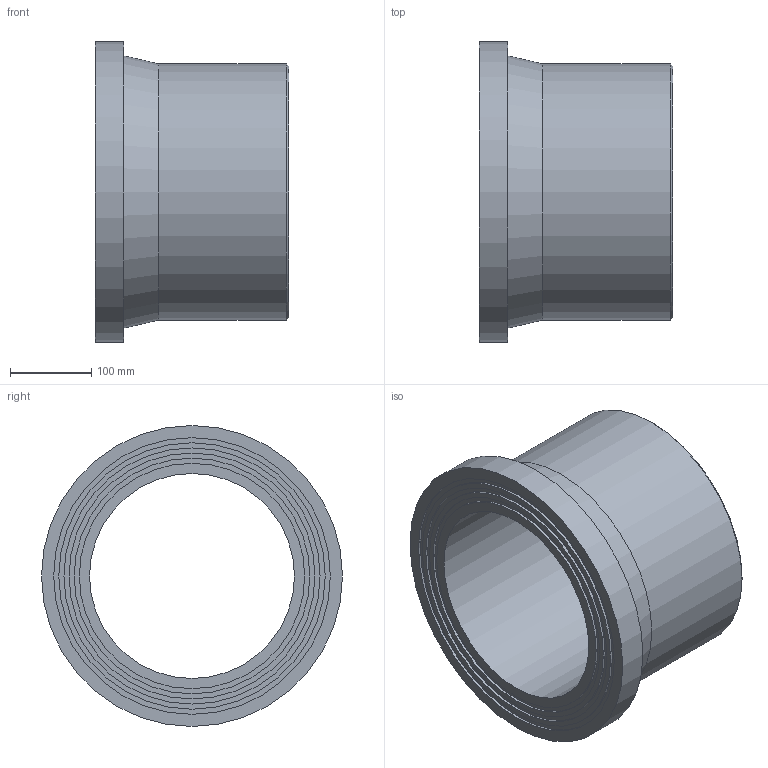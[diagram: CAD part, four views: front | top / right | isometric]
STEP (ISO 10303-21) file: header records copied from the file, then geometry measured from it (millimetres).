
FILE_DESCRIPTION(/* description */ ('Stub Flange 315'),/* implementation_level */ '2;1');
FILE_NAME(/* name */ 'C:\Dropbox\KIMPROJECTS-Inventor\99-16-3568-Processing\ElectroFusion Fittings\31.03.19\490207\490207315.ipt.stp',/* time_stamp */ '2019-03-31T18:57:54+03:00',/* author */ ('Кирилл'),/* organization */ (''),/* preprocessor_version */ 'ST-DEVELOPER v15.6',/* originating_system */ 'Autodesk Inventor 2015',/* authorisation */ '');
FILE_SCHEMA (('AUTOMOTIVE_DESIGN { 1 0 10303 214 3 1 1 }'));
Length unit declared in the file: millimetre
Products named in the file (1): 490207315
Bounding box: 238 x 370 x 370 mm (x, y, z)
Volume: 7867437.9 mm3; surface area: 554085.9 mm2
Topology: 1 solids, 1 shells, 20 faces, 31 edges, 20 vertices
Faces by surface type: cylinder 9, plane 9, cone 2
Full cylindrical faces by diameter (mm): 252 x1, 277.2 x1, 289.8 x1, 302.4 x1, 315 x2, 327.6 x1, 340.2 x1, 370 x1
Entity records: 432 total; most frequent: DIRECTION 82, CARTESIAN_POINT 61, AXIS2_PLACEMENT_3D 41, EDGE_LOOP 40, ORIENTED_EDGE 40, FACE_BOUND 20, FACE_OUTER_BOUND 20, CIRCLE 20
